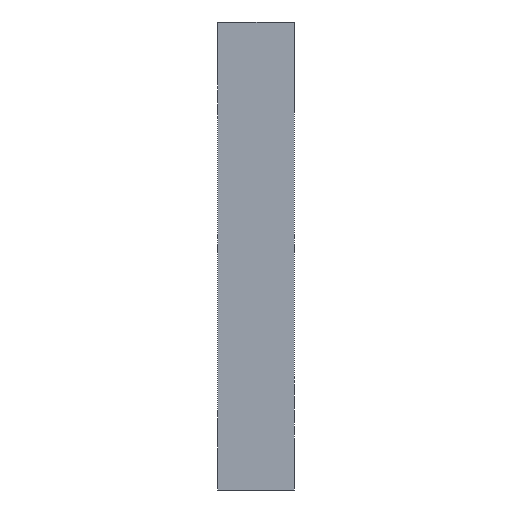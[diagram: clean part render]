
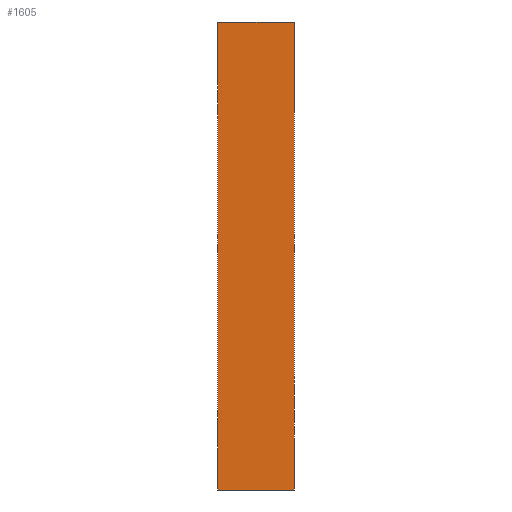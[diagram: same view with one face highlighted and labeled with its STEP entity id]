
A CAD part, left-side view. The second image highlights one B-rep face of the part: STEP entity #1605.
In plain terms, the highlighted planar face has unit normal (-1, 0, 0).
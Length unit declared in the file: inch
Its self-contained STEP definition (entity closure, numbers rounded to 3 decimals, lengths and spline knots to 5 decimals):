
#126 = LINE ( 'NONE', #2222, #130 ) ;
#130 = VECTOR ( 'NONE', #1338, 39.37008 ) ;
#694 = ORIENTED_EDGE ( 'NONE', *, *, #2797, .F. ) ;
#705 = EDGE_CURVE ( 'NONE', #2678, #1594, #126, .T. ) ;
#846 = VECTOR ( 'NONE', #3052, 39.37008 ) ;
#876 = CARTESIAN_POINT ( 'NONE',  ( -14.32432, 1.06, 3.53108 ) ) ;
#891 = VECTOR ( 'NONE', #3398, 39.37008 ) ;
#915 = ORIENTED_EDGE ( 'NONE', *, *, #705, .T. ) ;
#1196 = ORIENTED_EDGE ( 'NONE', *, *, #2122, .F. ) ;
#1248 = CARTESIAN_POINT ( 'NONE',  ( -14.32432, 0., -2.96892 ) ) ;
#1336 = VERTEX_POINT ( 'NONE', #2672 ) ;
#1338 = DIRECTION ( 'NONE',  ( 0., 0., 1. ) ) ;
#1357 = LINE ( 'NONE', #1556, #3034 ) ;
#1491 = LINE ( 'NONE', #2966, #846 ) ;
#1556 = CARTESIAN_POINT ( 'NONE',  ( -14.32432, 1.06, -2.96892 ) ) ;
#1589 = VERTEX_POINT ( 'NONE', #2099 ) ;
#1594 = VERTEX_POINT ( 'NONE', #2052 ) ;
#1605 = ADVANCED_FACE ( 'NONE', ( #2879 ), #1865, .F. ) ;
#1781 = DIRECTION ( 'NONE',  ( 0., -1., 0. ) ) ;
#1836 = DIRECTION ( 'NONE',  ( 0., 0., -1. ) ) ;
#1852 = DIRECTION ( 'NONE',  ( 1., 0., 0. ) ) ;
#1865 = PLANE ( 'NONE',  #3347 ) ;
#2052 = CARTESIAN_POINT ( 'NONE',  ( -14.32432, 0., 3.53108 ) ) ;
#2097 = CARTESIAN_POINT ( 'NONE',  ( -14.32432, 1.06, -2.96892 ) ) ;
#2099 = CARTESIAN_POINT ( 'NONE',  ( -14.32432, 1.06, 3.53108 ) ) ;
#2122 = EDGE_CURVE ( 'NONE', #1336, #1589, #1491, .T. ) ;
#2222 = CARTESIAN_POINT ( 'NONE',  ( -14.32432, 0., -2.96892 ) ) ;
#2334 = EDGE_CURVE ( 'NONE', #1336, #2678, #1357, .T. ) ;
#2369 = LINE ( 'NONE', #876, #891 ) ;
#2672 = CARTESIAN_POINT ( 'NONE',  ( -14.32432, 1.06, -2.96892 ) ) ;
#2678 = VERTEX_POINT ( 'NONE', #1248 ) ;
#2797 = EDGE_CURVE ( 'NONE', #1589, #1594, #2369, .T. ) ;
#2856 = ORIENTED_EDGE ( 'NONE', *, *, #2334, .T. ) ;
#2879 = FACE_OUTER_BOUND ( 'NONE', #2920, .T. ) ;
#2920 = EDGE_LOOP ( 'NONE', ( #915, #694, #1196, #2856 ) ) ;
#2966 = CARTESIAN_POINT ( 'NONE',  ( -14.32432, 1.06, -2.96892 ) ) ;
#3034 = VECTOR ( 'NONE', #1781, 39.37008 ) ;
#3052 = DIRECTION ( 'NONE',  ( 0., 0., 1. ) ) ;
#3347 = AXIS2_PLACEMENT_3D ( 'NONE', #2097, #1852, #1836 ) ;
#3398 = DIRECTION ( 'NONE',  ( 0., -1., 0. ) ) ;
